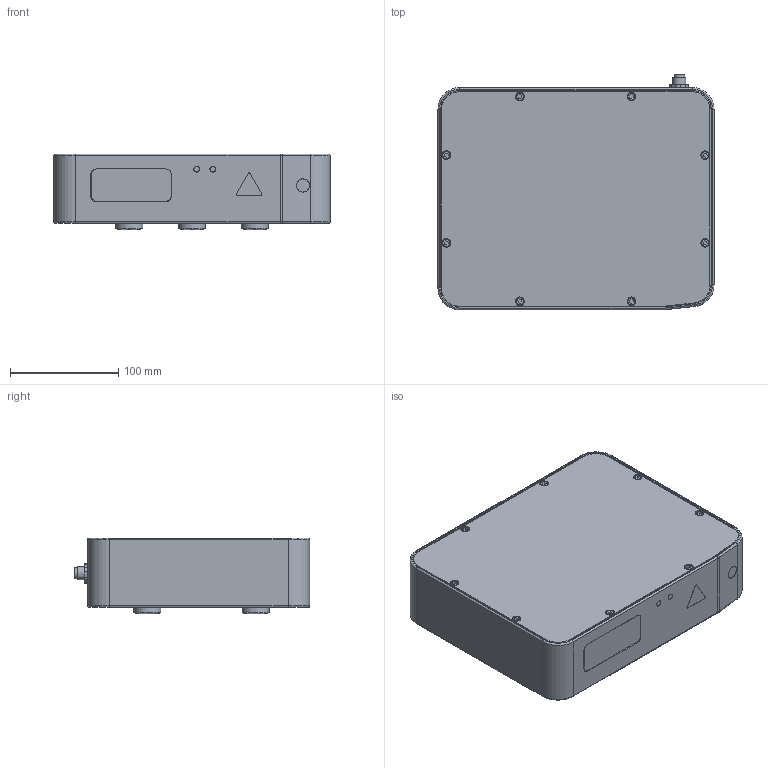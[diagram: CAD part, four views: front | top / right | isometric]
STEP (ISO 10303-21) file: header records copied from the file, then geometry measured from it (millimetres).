
FILE_DESCRIPTION((''),'2;1');
FILE_NAME('Z:\udvikling\Inventor Tegninger\Produktions Tegninger\3000 REDLINE II\Step Files til hjemmeside\DSE\Step File Red_Line_3D DSE Red.stp','2017-03-24T01:44:55',('Peter'),(''),'Autodesk Inventor 2008','Autodesk Inventor 2008','');
FILE_SCHEMA(('AUTOMOTIVE_DESIGN { 1 0 10303 214 1 1 1 1 }'));
Length unit declared in the file: millimetre
Products named in the file (11): Assembly for Red_Line_3D DSE; M12 12pol Connector; 3005-18_House; 3020-01_RødtFrontGlas_74x30_RG630_HB630; 3015-02_RedlineFod; 3006-10_Låg; M4skrue; 3021-01_RødtLaserGlas_Ø11; LED Diode; Laser_Warning_Label; LABEL DSE
Assembly tree (21 placements, depth 2):
  Assembly for Red_Line_3D DSE
    M12 12pol Connector
    3005-18_House
    3020-01_RødtFrontGlas_74x30_RG630_HB630
    3015-02_RedlineFod  x3
    3006-10_Låg
    M4skrue  x9
    3021-01_RødtLaserGlas_Ø11
    LED Diode  x2
    Laser_Warning_Label
    LABEL DSE
Bounding box: 255 x 217.8 x 70 mm (x, y, z)
Volume: 715974.9 mm3; surface area: 349137.9 mm2
Topology: 21 solids, 21 shells, 577 faces, 1362 edges, 892 vertices
Faces by surface type: plane 321, cylinder 174, bspline 50, cone 22, torus 10
Full cylindrical faces by diameter (mm): 0.5 x12, 3.3 x6, 4 x9, 5 x2, 5.3 x2, 6.9 x9, 8 x1, 10 x5, 11.8 x1, 12 x4, 12.3 x1, 13.778 x1, 15.3 x3, 16 x1, 25 x3
Entity records: 14038 total; most frequent: CARTESIAN_POINT 2999, DIRECTION 2248, ORIENTED_EDGE 2012, EDGE_CURVE 1006, AXIS2_PLACEMENT_3D 813, VERTEX_POINT 698, VECTOR 622, LINE 622
